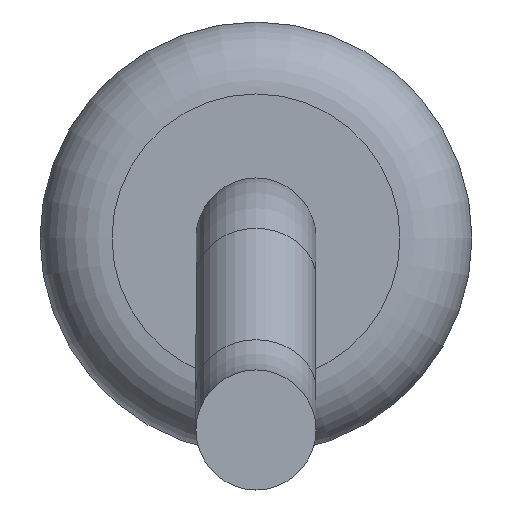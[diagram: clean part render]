
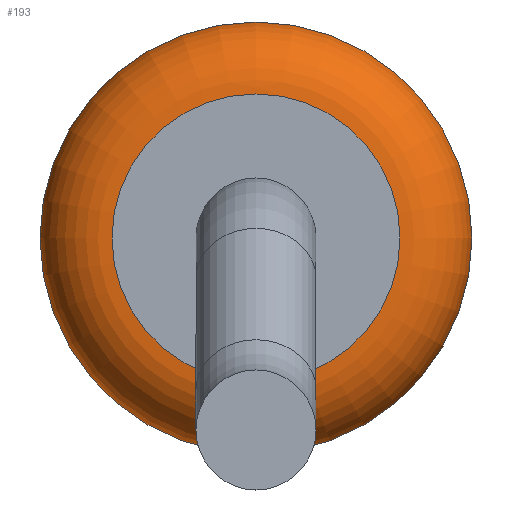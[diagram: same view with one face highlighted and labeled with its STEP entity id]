
A CAD part, left-side view. The second image highlights one B-rep face of the part: STEP entity #193.
In plain terms, the highlighted toroidal (fillet/blend) face has major radius 0.6 mm and minor radius 0.3 mm.
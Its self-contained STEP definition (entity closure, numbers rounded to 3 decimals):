
#193=ADVANCED_FACE('',(#398,#400),#402,.T.);
#398=FACE_OUTER_BOUND('',#399,.T.);
#399=EDGE_LOOP('',(#497));
#400=FACE_OUTER_BOUND('',#401,.T.);
#401=EDGE_LOOP('',(#498));
#402=TOROIDAL_SURFACE('',#403,0.6,0.3);
#403=AXIS2_PLACEMENT_3D('',#404,#405,#406);
#404=CARTESIAN_POINT('',(-1.35,0.,0.));
#405=DIRECTION('',(-1.,0.,0.));
#406=DIRECTION('',(0.,0.,1.));
#497=ORIENTED_EDGE('',*,*,#526,.T.);
#498=ORIENTED_EDGE('',*,*,#527,.F.);
#526=EDGE_CURVE('',#562,#562,#563,.T.);
#527=EDGE_CURVE('',#564,#564,#565,.T.);
#562=VERTEX_POINT('',#648);
#563=CIRCLE('',#649,0.9);
#564=VERTEX_POINT('',#653);
#565=CIRCLE('',#654,0.6);
#648=CARTESIAN_POINT('',(-1.35,0.,0.9));
#649=AXIS2_PLACEMENT_3D('',#650,#651,#652);
#650=CARTESIAN_POINT('',(-1.35,0.,0.));
#651=DIRECTION('',(-1.,0.,0.));
#652=DIRECTION('',(0.,0.,1.));
#653=CARTESIAN_POINT('',(-1.65,0.,0.6));
#654=AXIS2_PLACEMENT_3D('',#655,#656,#657);
#655=CARTESIAN_POINT('',(-1.65,0.,0.));
#656=DIRECTION('',(-1.,0.,0.));
#657=DIRECTION('',(0.,0.,1.));
